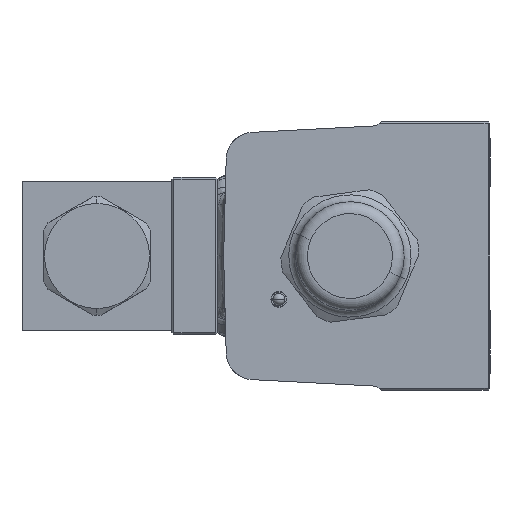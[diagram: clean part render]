
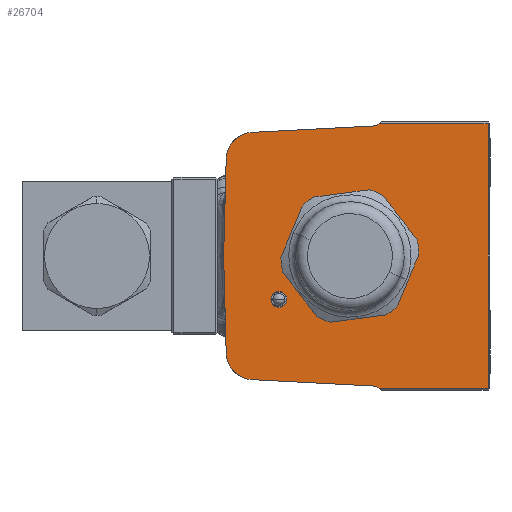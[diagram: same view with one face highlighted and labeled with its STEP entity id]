
A CAD part, left-side view. The second image highlights one B-rep face of the part: STEP entity #26704.
In plain terms, the highlighted planar face has unit normal (-1, 0, 0).
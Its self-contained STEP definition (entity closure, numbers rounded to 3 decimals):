
#142 = DIRECTION ( 'NONE',  ( 0., -0.026, 1. ) ) ;
#464 = AXIS2_PLACEMENT_3D ( 'NONE', #2162, #34351, #6780 ) ;
#634 = ORIENTED_EDGE ( 'NONE', *, *, #18730, .T. ) ;
#753 = EDGE_CURVE ( 'NONE', #24921, #8723, #26004, .T. ) ;
#1290 = EDGE_CURVE ( 'NONE', #15739, #37390, #30169, .T. ) ;
#1327 = LINE ( 'NONE', #1787, #25795 ) ;
#1362 = CARTESIAN_POINT ( 'NONE',  ( -46.6, 32., 0. ) ) ;
#1621 = FACE_BOUND ( 'NONE', #55680, .T. ) ;
#1689 = CARTESIAN_POINT ( 'NONE',  ( -46.6, 31.358, 24.53 ) ) ;
#1787 = CARTESIAN_POINT ( 'NONE',  ( -46.6, 31.978, -0.837 ) ) ;
#2162 = CARTESIAN_POINT ( 'NONE',  ( -46.6, -5.693, 35.936 ) ) ;
#2622 = CARTESIAN_POINT ( 'NONE',  ( -46.6, 0., 0. ) ) ;
#3220 = CARTESIAN_POINT ( 'NONE',  ( -46.6, -16., 0. ) ) ;
#3390 = LINE ( 'NONE', #46559, #27864 ) ;
#4130 = VECTOR ( 'NONE', #12270, 1000. ) ;
#4802 = CARTESIAN_POINT ( 'NONE',  ( -46.6, 16., 0. ) ) ;
#5808 = ORIENTED_EDGE ( 'NONE', *, *, #45559, .T. ) ;
#5876 = CARTESIAN_POINT ( 'NONE',  ( -46.6, 18., -9. ) ) ;
#6267 = DIRECTION ( 'NONE',  ( -1., 0., 0. ) ) ;
#6455 = AXIS2_PLACEMENT_3D ( 'NONE', #9485, #41651, #14113 ) ;
#6780 = DIRECTION ( 'NONE',  ( 0., 0., 1. ) ) ;
#7267 = DIRECTION ( 'NONE',  ( 0., -1., 0. ) ) ;
#7495 = CARTESIAN_POINT ( 'NONE',  ( -46.6, -5.693, -35.936 ) ) ;
#7515 = AXIS2_PLACEMENT_3D ( 'NONE', #33835, #6267, #38431 ) ;
#8369 = CIRCLE ( 'NONE', #44005, 16. ) ;
#8496 = ORIENTED_EDGE ( 'NONE', *, *, #33801, .T. ) ;
#8723 = VERTEX_POINT ( 'NONE', #47825 ) ;
#9138 = CARTESIAN_POINT ( 'NONE',  ( -46.6, 24.36, 24.347 ) ) ;
#9231 = EDGE_CURVE ( 'NONE', #50313, #42819, #3390, .T. ) ;
#9267 = CIRCLE ( 'NONE', #19264, 7. ) ;
#9485 = CARTESIAN_POINT ( 'NONE',  ( -46.6, 0., 0. ) ) ;
#10527 = EDGE_CURVE ( 'NONE', #26368, #53891, #38293, .T. ) ;
#11544 = CARTESIAN_POINT ( 'NONE',  ( -46.6, -35., 33.5 ) ) ;
#12081 = DIRECTION ( 'NONE',  ( 0., 0., 1. ) ) ;
#12270 = DIRECTION ( 'NONE',  ( 0., 0., 1. ) ) ;
#12969 = DIRECTION ( 'NONE',  ( -1., 0., 0. ) ) ;
#13058 = CARTESIAN_POINT ( 'NONE',  ( -46.6, 18., -11. ) ) ;
#13743 = VECTOR ( 'NONE', #28150, 1000. ) ;
#13757 = DIRECTION ( 'NONE',  ( 0., 0., 1. ) ) ;
#13807 = VECTOR ( 'NONE', #142, 1000. ) ;
#14113 = DIRECTION ( 'NONE',  ( 0., -1., 0. ) ) ;
#15186 = EDGE_CURVE ( 'NONE', #17405, #29959, #43810, .T. ) ;
#15739 = VERTEX_POINT ( 'NONE', #30325 ) ;
#16196 = DIRECTION ( 'NONE',  ( 1., 0., 0. ) ) ;
#17405 = VERTEX_POINT ( 'NONE', #37502 ) ;
#17632 = DIRECTION ( 'NONE',  ( 0., 0., 1. ) ) ;
#17674 = ORIENTED_EDGE ( 'NONE', *, *, #42583, .F. ) ;
#17959 = CARTESIAN_POINT ( 'NONE',  ( -46.6, 31.978, 0.837 ) ) ;
#18145 = CIRCLE ( 'NONE', #6455, 16. ) ;
#18730 = EDGE_CURVE ( 'NONE', #35487, #42819, #33051, .T. ) ;
#19024 = CARTESIAN_POINT ( 'NONE',  ( -46.6, -5.85, -32.94 ) ) ;
#19039 = DIRECTION ( 'NONE',  ( 0., -0.999, 0.052 ) ) ;
#19264 = AXIS2_PLACEMENT_3D ( 'NONE', #43740, #16196, #48334 ) ;
#20215 = VERTEX_POINT ( 'NONE', #3220 ) ;
#20423 = VECTOR ( 'NONE', #20984, 1000. ) ;
#20513 = ORIENTED_EDGE ( 'NONE', *, *, #32861, .T. ) ;
#20984 = DIRECTION ( 'NONE',  ( 0., 1., 0. ) ) ;
#21535 = ORIENTED_EDGE ( 'NONE', *, *, #41296, .T. ) ;
#21596 = EDGE_CURVE ( 'NONE', #40894, #20215, #18145, .T. ) ;
#22405 = ORIENTED_EDGE ( 'NONE', *, *, #1290, .T. ) ;
#23477 = EDGE_CURVE ( 'NONE', #29959, #17405, #27268, .T. ) ;
#23501 = CARTESIAN_POINT ( 'NONE',  ( -46.6, -35.5, -33.5 ) ) ;
#23827 = CARTESIAN_POINT ( 'NONE',  ( -46.6, 1.706, -32.544 ) ) ;
#24602 = CIRCLE ( 'NONE', #52619, 3. ) ;
#24921 = VERTEX_POINT ( 'NONE', #28999 ) ;
#25795 = VECTOR ( 'NONE', #47567, 1000. ) ;
#26004 = LINE ( 'NONE', #23501, #13743 ) ;
#26368 = VERTEX_POINT ( 'NONE', #1362 ) ;
#26704 = ADVANCED_FACE ( 'NONE', ( #47583, #49051, #1621 ), #49533, .T. ) ;
#27268 = CIRCLE ( 'NONE', #43123, 2. ) ;
#27864 = VECTOR ( 'NONE', #19039, 1000. ) ;
#28150 = DIRECTION ( 'NONE',  ( 0., -1., 0. ) ) ;
#28514 = VERTEX_POINT ( 'NONE', #45903 ) ;
#28691 = VERTEX_POINT ( 'NONE', #11544 ) ;
#28905 = ORIENTED_EDGE ( 'NONE', *, *, #10527, .F. ) ;
#28999 = CARTESIAN_POINT ( 'NONE',  ( -46.6, -7.444, -33.5 ) ) ;
#29769 = CARTESIAN_POINT ( 'NONE',  ( -46.6, -7.444, 33.5 ) ) ;
#29959 = VERTEX_POINT ( 'NONE', #5876 ) ;
#30169 = LINE ( 'NONE', #23827, #53105 ) ;
#30325 = CARTESIAN_POINT ( 'NONE',  ( -46.6, 24.726, -31.337 ) ) ;
#31255 = LINE ( 'NONE', #53875, #20423 ) ;
#32535 = EDGE_LOOP ( 'NONE', ( #8496, #50098, #51376, #5808, #634, #32963, #21535, #28905, #20513, #17674, #22405 ) ) ;
#32861 = EDGE_CURVE ( 'NONE', #26368, #28514, #1327, .T. ) ;
#32963 = ORIENTED_EDGE ( 'NONE', *, *, #9231, .F. ) ;
#33051 = CIRCLE ( 'NONE', #464, 3. ) ;
#33316 = DIRECTION ( 'NONE',  ( 0., -0.999, -0.052 ) ) ;
#33801 = EDGE_CURVE ( 'NONE', #37390, #24921, #24602, .T. ) ;
#33835 = CARTESIAN_POINT ( 'NONE',  ( -46.6, 18., -11. ) ) ;
#34351 = DIRECTION ( 'NONE',  ( 1., 0., 0. ) ) ;
#34830 = DIRECTION ( 'NONE',  ( -1., 0., 0. ) ) ;
#34982 = ORIENTED_EDGE ( 'NONE', *, *, #15186, .F. ) ;
#35162 = EDGE_CURVE ( 'NONE', #8723, #28691, #51523, .T. ) ;
#35487 = VERTEX_POINT ( 'NONE', #29769 ) ;
#35786 = AXIS2_PLACEMENT_3D ( 'NONE', #9138, #41320, #13757 ) ;
#36228 = CIRCLE ( 'NONE', #35786, 7. ) ;
#37041 = EDGE_CURVE ( 'NONE', #20215, #40894, #8369, .T. ) ;
#37390 = VERTEX_POINT ( 'NONE', #19024 ) ;
#37502 = CARTESIAN_POINT ( 'NONE',  ( -46.6, 18., -13. ) ) ;
#38293 = LINE ( 'NONE', #17959, #13807 ) ;
#38431 = DIRECTION ( 'NONE',  ( 0., 0., 1. ) ) ;
#39648 = DIRECTION ( 'NONE',  ( 1., 0., 0. ) ) ;
#40531 = CARTESIAN_POINT ( 'NONE',  ( -46.6, -35.5, -34. ) ) ;
#40894 = VERTEX_POINT ( 'NONE', #4802 ) ;
#41296 = EDGE_CURVE ( 'NONE', #50313, #53891, #36228, .T. ) ;
#41320 = DIRECTION ( 'NONE',  ( -1., 0., 0. ) ) ;
#41651 = DIRECTION ( 'NONE',  ( -1., 0., 0. ) ) ;
#42583 = EDGE_CURVE ( 'NONE', #15739, #28514, #9267, .T. ) ;
#42819 = VERTEX_POINT ( 'NONE', #55118 ) ;
#43123 = AXIS2_PLACEMENT_3D ( 'NONE', #13058, #45192, #17632 ) ;
#43740 = CARTESIAN_POINT ( 'NONE',  ( -46.6, 24.36, -24.347 ) ) ;
#43810 = CIRCLE ( 'NONE', #7515, 2. ) ;
#44005 = AXIS2_PLACEMENT_3D ( 'NONE', #2622, #34830, #7267 ) ;
#44405 = CARTESIAN_POINT ( 'NONE',  ( -46.6, -35., -34. ) ) ;
#45103 = DIRECTION ( 'NONE',  ( 0., 0., 1. ) ) ;
#45192 = DIRECTION ( 'NONE',  ( -1., 0., 0. ) ) ;
#45559 = EDGE_CURVE ( 'NONE', #28691, #35487, #31255, .T. ) ;
#45903 = CARTESIAN_POINT ( 'NONE',  ( -46.6, 31.358, -24.53 ) ) ;
#46559 = CARTESIAN_POINT ( 'NONE',  ( -46.6, 1.706, 32.544 ) ) ;
#47567 = DIRECTION ( 'NONE',  ( 0., -0.026, -1. ) ) ;
#47583 = FACE_OUTER_BOUND ( 'NONE', #32535, .T. ) ;
#47825 = CARTESIAN_POINT ( 'NONE',  ( -46.6, -35., -33.5 ) ) ;
#48334 = DIRECTION ( 'NONE',  ( 0., 0., 1. ) ) ;
#49051 = FACE_BOUND ( 'NONE', #49404, .T. ) ;
#49404 = EDGE_LOOP ( 'NONE', ( #53143, #34982 ) ) ;
#49472 = CARTESIAN_POINT ( 'NONE',  ( -46.6, 24.726, 31.337 ) ) ;
#49533 = PLANE ( 'NONE',  #49543 ) ;
#49543 = AXIS2_PLACEMENT_3D ( 'NONE', #40531, #12969, #45103 ) ;
#50098 = ORIENTED_EDGE ( 'NONE', *, *, #753, .T. ) ;
#50313 = VERTEX_POINT ( 'NONE', #49472 ) ;
#51376 = ORIENTED_EDGE ( 'NONE', *, *, #35162, .T. ) ;
#51523 = LINE ( 'NONE', #44405, #4130 ) ;
#52619 = AXIS2_PLACEMENT_3D ( 'NONE', #7495, #39648, #12081 ) ;
#53105 = VECTOR ( 'NONE', #33316, 1000. ) ;
#53143 = ORIENTED_EDGE ( 'NONE', *, *, #23477, .F. ) ;
#53875 = CARTESIAN_POINT ( 'NONE',  ( -46.6, -35.5, 33.5 ) ) ;
#53891 = VERTEX_POINT ( 'NONE', #1689 ) ;
#55118 = CARTESIAN_POINT ( 'NONE',  ( -46.6, -5.85, 32.94 ) ) ;
#55680 = EDGE_LOOP ( 'NONE', ( #57146, #57417 ) ) ;
#57146 = ORIENTED_EDGE ( 'NONE', *, *, #37041, .F. ) ;
#57417 = ORIENTED_EDGE ( 'NONE', *, *, #21596, .F. ) ;
